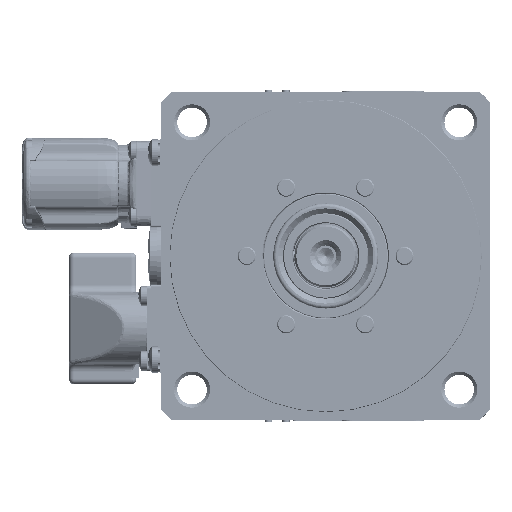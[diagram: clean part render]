
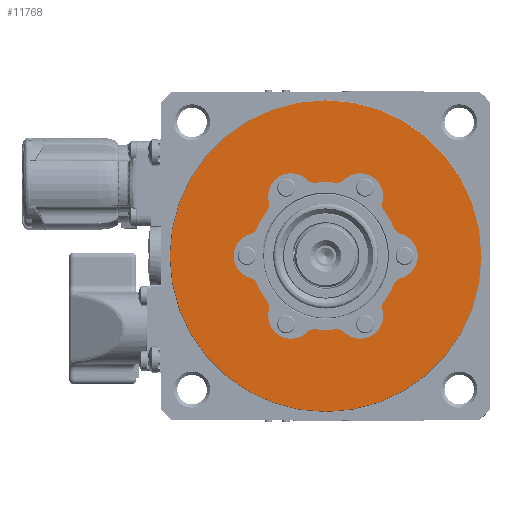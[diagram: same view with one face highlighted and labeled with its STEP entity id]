
A CAD part, left-side view. The second image highlights one B-rep face of the part: STEP entity #11768.
In plain terms, the highlighted planar face has unit normal (-1, 0, 0).
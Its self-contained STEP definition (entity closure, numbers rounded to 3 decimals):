
#169=CARTESIAN_POINT('',(1.,0.,
0.));
#170=DIRECTION('',(-1.,0.,0.));
#171=DIRECTION('',(0.,1.,0.));
#172=AXIS2_PLACEMENT_3D('',#169,#170,#171);
#177=CARTESIAN_POINT('',(1.,0.,
0.));
#178=DIRECTION('',(-1.,0.,0.));
#179=DIRECTION('',(0.,-1.,0.));
#180=AXIS2_PLACEMENT_3D('',#177,#178,#179);
#185=CARTESIAN_POINT('',(1.,0.,0.));
#186=DIRECTION('',(-1.,0.,0.));
#187=DIRECTION('',(0.,0.926,-0.379));
#188=AXIS2_PLACEMENT_3D('',#185,#186,#187);
#215=CARTESIAN_POINT('',(1.,0.,0.));
#216=DIRECTION('',(-1.,0.,0.));
#217=DIRECTION('',(0.,0.135,-0.991));
#218=AXIS2_PLACEMENT_3D('',#215,#216,#217);
#245=CARTESIAN_POINT('',(1.,0.,0.));
#246=DIRECTION('',(-1.,0.,0.));
#247=DIRECTION('',(0.,-0.791,-0.612));
#248=AXIS2_PLACEMENT_3D('',#245,#246,#247);
#275=CARTESIAN_POINT('',(1.,0.,0.));
#276=DIRECTION('',(-1.,0.,0.));
#277=DIRECTION('',(0.,-0.926,0.379));
#278=AXIS2_PLACEMENT_3D('',#275,#276,#277);
#305=CARTESIAN_POINT('',(1.,0.,0.));
#306=DIRECTION('',(-1.,0.,0.));
#307=DIRECTION('',(0.,-0.135,0.991));
#308=AXIS2_PLACEMENT_3D('',#305,#306,#307);
#342=CARTESIAN_POINT('',(1.,0.,0.));
#343=DIRECTION('',(-1.,0.,0.));
#344=DIRECTION('',(0.,0.791,0.612));
#345=AXIS2_PLACEMENT_3D('',#342,#343,#344);
#365=CARTESIAN_POINT('',(1.,23.601,-9.656));
#366=DIRECTION('',(-1.,0.,0.));
#367=DIRECTION('',(0.,-0.926,0.379));
#368=AXIS2_PLACEMENT_3D('',#365,#366,#367);
#381=CARTESIAN_POINT('',(1.,21.,0.));
#382=DIRECTION('',(-1.,0.,0.));
#383=DIRECTION('',(0.,0.26,0.966));
#384=AXIS2_PLACEMENT_3D('',#381,#382,#383);
#403=CARTESIAN_POINT('',(1.,23.601,9.656));
#404=DIRECTION('',(1.,0.,0.));
#405=DIRECTION('',(0.,-0.926,-0.379));
#406=AXIS2_PLACEMENT_3D('',#403,#404,#405);
#579=CARTESIAN_POINT('',(1.,20.163,15.611));
#580=DIRECTION('',(-1.,0.,0.));
#581=DIRECTION('',(0.,-0.791,-0.612));
#582=AXIS2_PLACEMENT_3D('',#579,#580,#581);
#595=CARTESIAN_POINT('',(1.,10.5,18.187));
#596=DIRECTION('',(-1.,0.,0.));
#597=DIRECTION('',(0.,-0.706,0.708));
#598=AXIS2_PLACEMENT_3D('',#595,#596,#597);
#617=CARTESIAN_POINT('',(1.,3.438,25.267));
#618=DIRECTION('',(1.,0.,0.));
#619=DIRECTION('',(0.,-0.135,-0.991));
#620=AXIS2_PLACEMENT_3D('',#617,#618,#619);
#633=CARTESIAN_POINT('',(1.,-3.438,25.267));
#634=DIRECTION('',(-1.,0.,0.));
#635=DIRECTION('',(0.,0.135,-0.991));
#636=AXIS2_PLACEMENT_3D('',#633,#634,#635);
#649=CARTESIAN_POINT('',(1.,-10.5,18.187));
#650=DIRECTION('',(-1.,0.,0.));
#651=DIRECTION('',(0.,-0.966,-0.258));
#652=AXIS2_PLACEMENT_3D('',#649,#650,#651);
#671=CARTESIAN_POINT('',(1.,-20.163,15.611));
#672=DIRECTION('',(1.,0.,0.));
#673=DIRECTION('',(0.,0.791,-0.612));
#674=AXIS2_PLACEMENT_3D('',#671,#672,#673);
#687=CARTESIAN_POINT('',(1.,-23.601,9.656));
#688=DIRECTION('',(-1.,0.,0.));
#689=DIRECTION('',(0.,0.926,-0.379));
#690=AXIS2_PLACEMENT_3D('',#687,#688,#689);
#703=CARTESIAN_POINT('',(1.,-21.,0.));
#704=DIRECTION('',(-1.,0.,0.));
#705=DIRECTION('',(0.,-0.26,-0.966));
#706=AXIS2_PLACEMENT_3D('',#703,#704,#705);
#725=CARTESIAN_POINT('',(1.,-23.601,-9.656));
#726=DIRECTION('',(1.,0.,0.));
#727=DIRECTION('',(0.,0.926,0.379));
#728=AXIS2_PLACEMENT_3D('',#725,#726,#727);
#741=CARTESIAN_POINT('',(1.,-20.163,-15.611));
#742=DIRECTION('',(-1.,0.,0.));
#743=DIRECTION('',(0.,0.791,0.612));
#744=AXIS2_PLACEMENT_3D('',#741,#742,#743);
#757=CARTESIAN_POINT('',(1.,-10.5,-18.187));
#758=DIRECTION('',(-1.,0.,0.));
#759=DIRECTION('',(0.,0.706,-0.708));
#760=AXIS2_PLACEMENT_3D('',#757,#758,#759);
#779=CARTESIAN_POINT('',(1.,-3.438,-25.267));
#780=DIRECTION('',(1.,0.,0.));
#781=DIRECTION('',(0.,0.135,0.991));
#782=AXIS2_PLACEMENT_3D('',#779,#780,#781);
#795=CARTESIAN_POINT('',(1.,3.438,-25.267));
#796=DIRECTION('',(-1.,0.,0.));
#797=DIRECTION('',(0.,-0.135,0.991));
#798=AXIS2_PLACEMENT_3D('',#795,#796,#797);
#811=CARTESIAN_POINT('',(1.,10.5,-18.187));
#812=DIRECTION('',(-1.,0.,0.));
#813=DIRECTION('',(0.,0.966,0.258));
#814=AXIS2_PLACEMENT_3D('',#811,#812,#813);
#833=CARTESIAN_POINT('',(1.,20.163,-15.611));
#834=DIRECTION('',(1.,0.,0.));
#835=DIRECTION('',(0.,-0.791,0.612));
#836=AXIS2_PLACEMENT_3D('',#833,#834,#835);
#10690=CARTESIAN_POINT('',(1.,47.361,0.));
#10691=CARTESIAN_POINT('',(1.,-47.361,0.));
#10692=VERTEX_POINT('',#10690);
#10693=VERTEX_POINT('',#10691);
#10822=CARTESIAN_POINT('',(1.,20.825,-8.52));
#10823=CARTESIAN_POINT('',(1.,17.791,-13.775));
#10824=VERTEX_POINT('',#10822);
#10825=VERTEX_POINT('',#10823);
#10826=CARTESIAN_POINT('',(1.,3.034,-22.295));
#10827=CARTESIAN_POINT('',(1.,-3.034,-22.295));
#10828=VERTEX_POINT('',#10826);
#10829=VERTEX_POINT('',#10827);
#10830=CARTESIAN_POINT('',(1.,-17.791,-13.775));
#10831=CARTESIAN_POINT('',(1.,-20.825,-8.52));
#10832=VERTEX_POINT('',#10830);
#10833=VERTEX_POINT('',#10831);
#10834=CARTESIAN_POINT('',(1.,-20.825,8.52));
#10835=CARTESIAN_POINT('',(1.,-17.791,13.775));
#10836=VERTEX_POINT('',#10834);
#10837=VERTEX_POINT('',#10835);
#10838=CARTESIAN_POINT('',(1.,-3.034,22.295));
#10839=CARTESIAN_POINT('',(1.,3.034,22.295));
#10840=VERTEX_POINT('',#10838);
#10841=VERTEX_POINT('',#10839);
#10842=CARTESIAN_POINT('',(1.,22.821,6.759));
#10843=CARTESIAN_POINT('',(1.,22.821,-6.759));
#10844=VERTEX_POINT('',#10842);
#10845=VERTEX_POINT('',#10843);
#10846=CARTESIAN_POINT('',(1.,17.264,-16.384));
#10847=CARTESIAN_POINT('',(1.,5.557,-23.143));
#10848=VERTEX_POINT('',#10846);
#10849=VERTEX_POINT('',#10847);
#10850=CARTESIAN_POINT('',(1.,-5.557,-23.143));
#10851=CARTESIAN_POINT('',(1.,-17.264,-16.384));
#10852=VERTEX_POINT('',#10850);
#10853=VERTEX_POINT('',#10851);
#10854=CARTESIAN_POINT('',(1.,-22.821,-6.759));
#10855=CARTESIAN_POINT('',(1.,-22.821,6.759));
#10856=VERTEX_POINT('',#10854);
#10857=VERTEX_POINT('',#10855);
#10858=CARTESIAN_POINT('',(1.,-17.264,16.384));
#10859=CARTESIAN_POINT('',(1.,-5.557,23.143));
#10860=VERTEX_POINT('',#10858);
#10861=VERTEX_POINT('',#10859);
#10910=CARTESIAN_POINT('',(1.,20.825,8.52));
#10911=VERTEX_POINT('',#10910);
#11052=CARTESIAN_POINT('',(1.,17.791,13.775));
#11053=VERTEX_POINT('',#11052);
#11054=CARTESIAN_POINT('',(1.,5.557,23.143));
#11055=CARTESIAN_POINT('',(1.,17.264,16.384));
#11056=VERTEX_POINT('',#11054);
#11057=VERTEX_POINT('',#11055);
#11709=CARTESIAN_POINT('',(1.,0.,0.));
#11710=DIRECTION('',(1.,0.,0.));
#11711=DIRECTION('',(0.,-1.,0.));
#11712=AXIS2_PLACEMENT_3D('',#11709,#11710,#11711);
#11713=PLANE('',#11712);
#11714=ORIENTED_EDGE('',*,*,#11704,.F.);
#11715=ORIENTED_EDGE('',*,*,#11688,.F.);
#11716=EDGE_LOOP('',(#11714,#11715));
#11717=FACE_OUTER_BOUND('',#11716,.F.);
#11719=ORIENTED_EDGE('',*,*,#11718,.T.);
#11721=ORIENTED_EDGE('',*,*,#11720,.T.);
#11723=ORIENTED_EDGE('',*,*,#11722,.T.);
#11725=ORIENTED_EDGE('',*,*,#11724,.F.);
#11727=ORIENTED_EDGE('',*,*,#11726,.T.);
#11729=ORIENTED_EDGE('',*,*,#11728,.T.);
#11731=ORIENTED_EDGE('',*,*,#11730,.T.);
#11733=ORIENTED_EDGE('',*,*,#11732,.F.);
#11735=ORIENTED_EDGE('',*,*,#11734,.T.);
#11737=ORIENTED_EDGE('',*,*,#11736,.T.);
#11739=ORIENTED_EDGE('',*,*,#11738,.T.);
#11741=ORIENTED_EDGE('',*,*,#11740,.F.);
#11743=ORIENTED_EDGE('',*,*,#11742,.T.);
#11745=ORIENTED_EDGE('',*,*,#11744,.T.);
#11747=ORIENTED_EDGE('',*,*,#11746,.T.);
#11749=ORIENTED_EDGE('',*,*,#11748,.F.);
#11751=ORIENTED_EDGE('',*,*,#11750,.T.);
#11753=ORIENTED_EDGE('',*,*,#11752,.T.);
#11755=ORIENTED_EDGE('',*,*,#11754,.T.);
#11757=ORIENTED_EDGE('',*,*,#11756,.F.);
#11759=ORIENTED_EDGE('',*,*,#11758,.T.);
#11761=ORIENTED_EDGE('',*,*,#11760,.T.);
#11763=ORIENTED_EDGE('',*,*,#11762,.T.);
#11765=ORIENTED_EDGE('',*,*,#11764,.F.);
#11766=EDGE_LOOP('',(#11719,#11721,#11723,#11725,#11727,#11729,#11731,#11733,
#11735,#11737,#11739,#11741,#11743,#11745,#11747,#11749,#11751,#11753,#11755,
#11757,#11759,#11761,#11763,#11765));
#11767=FACE_BOUND('',#11766,.F.);
#173=CIRCLE('',#172,47.361);
#181=CIRCLE('',#180,47.361);
#189=CIRCLE('',#188,22.5);
#219=CIRCLE('',#218,22.5);
#249=CIRCLE('',#248,22.5);
#279=CIRCLE('',#278,22.5);
#309=CIRCLE('',#308,22.5);
#346=CIRCLE('',#345,22.5);
#369=CIRCLE('',#368,3.);
#385=CIRCLE('',#384,7.);
#407=CIRCLE('',#406,3.);
#583=CIRCLE('',#582,3.);
#599=CIRCLE('',#598,7.);
#621=CIRCLE('',#620,3.);
#637=CIRCLE('',#636,3.);
#653=CIRCLE('',#652,7.);
#675=CIRCLE('',#674,3.);
#691=CIRCLE('',#690,3.);
#707=CIRCLE('',#706,7.);
#729=CIRCLE('',#728,3.);
#745=CIRCLE('',#744,3.);
#761=CIRCLE('',#760,7.);
#783=CIRCLE('',#782,3.);
#799=CIRCLE('',#798,3.);
#815=CIRCLE('',#814,7.);
#837=CIRCLE('',#836,3.);
#11688=EDGE_CURVE('',#10693,#10692,#181,.T.);
#11704=EDGE_CURVE('',#10692,#10693,#173,.T.);
#11718=EDGE_CURVE('',#10824,#10825,#189,.T.);
#11720=EDGE_CURVE('',#10825,#10848,#837,.T.);
#11722=EDGE_CURVE('',#10848,#10849,#815,.T.);
#11724=EDGE_CURVE('',#10828,#10849,#799,.T.);
#11726=EDGE_CURVE('',#10828,#10829,#219,.T.);
#11728=EDGE_CURVE('',#10829,#10852,#783,.T.);
#11730=EDGE_CURVE('',#10852,#10853,#761,.T.);
#11732=EDGE_CURVE('',#10832,#10853,#745,.T.);
#11734=EDGE_CURVE('',#10832,#10833,#249,.T.);
#11736=EDGE_CURVE('',#10833,#10856,#729,.T.);
#11738=EDGE_CURVE('',#10856,#10857,#707,.T.);
#11740=EDGE_CURVE('',#10836,#10857,#691,.T.);
#11742=EDGE_CURVE('',#10836,#10837,#279,.T.);
#11744=EDGE_CURVE('',#10837,#10860,#675,.T.);
#11746=EDGE_CURVE('',#10860,#10861,#653,.T.);
#11748=EDGE_CURVE('',#10840,#10861,#637,.T.);
#11750=EDGE_CURVE('',#10840,#10841,#309,.T.);
#11752=EDGE_CURVE('',#10841,#11056,#621,.T.);
#11754=EDGE_CURVE('',#11056,#11057,#599,.T.);
#11756=EDGE_CURVE('',#11053,#11057,#583,.T.);
#11758=EDGE_CURVE('',#11053,#10911,#346,.T.);
#11760=EDGE_CURVE('',#10911,#10844,#407,.T.);
#11762=EDGE_CURVE('',#10844,#10845,#385,.T.);
#11764=EDGE_CURVE('',#10824,#10845,#369,.T.);
#11768=ADVANCED_FACE('',(#11717,#11767),#11713,.F.);
